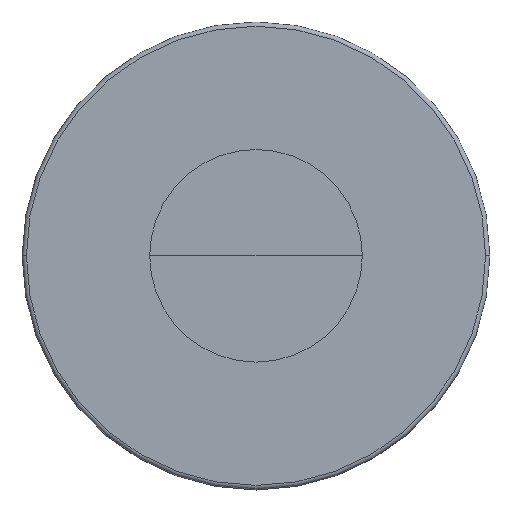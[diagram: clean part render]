
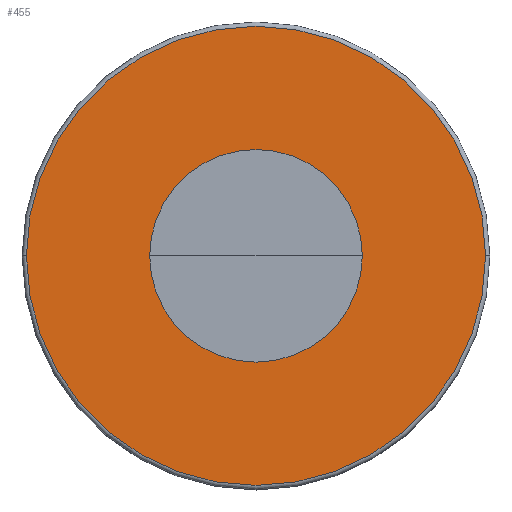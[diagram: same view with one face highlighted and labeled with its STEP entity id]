
A CAD part, top view. The second image highlights one B-rep face of the part: STEP entity #455.
In plain terms, the highlighted planar face has unit normal (0, 0, 1).
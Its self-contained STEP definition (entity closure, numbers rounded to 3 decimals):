
#9=CARTESIAN_POINT('',(0.,0.,3.));
#10=DIRECTION('',(0.,0.,-1.));
#11=DIRECTION('',(1.,0.,0.));
#12=AXIS2_PLACEMENT_3D('',#9,#10,#11);
#14=CARTESIAN_POINT('',(0.,0.,3.));
#15=DIRECTION('',(0.,0.,1.));
#16=DIRECTION('',(1.,0.,0.));
#17=AXIS2_PLACEMENT_3D('',#14,#15,#16);
#19=CARTESIAN_POINT('',(0.,0.,3.));
#20=DIRECTION('',(0.,0.,-1.));
#21=DIRECTION('',(1.,0.,0.));
#22=AXIS2_PLACEMENT_3D('',#19,#20,#21);
#24=CARTESIAN_POINT('',(0.,0.,3.));
#25=DIRECTION('',(0.,0.,-1.));
#26=DIRECTION('',(-1.,0.,0.));
#27=AXIS2_PLACEMENT_3D('',#24,#25,#26);
#374=CARTESIAN_POINT('',(1.25,0.,3.));
#376=VERTEX_POINT('',#374);
#377=CARTESIAN_POINT('',(-1.25,0.,3.));
#378=VERTEX_POINT('',#377);
#400=CARTESIAN_POINT('',(2.7,0.,3.));
#401=CARTESIAN_POINT('',(-2.7,0.,3.));
#402=VERTEX_POINT('',#400);
#403=VERTEX_POINT('',#401);
#440=CARTESIAN_POINT('',(0.,0.,3.));
#441=DIRECTION('',(0.,0.,1.));
#442=DIRECTION('',(-1.,0.,0.));
#443=AXIS2_PLACEMENT_3D('',#440,#441,#442);
#444=PLANE('',#443);
#446=ORIENTED_EDGE('',*,*,#445,.T.);
#448=ORIENTED_EDGE('',*,*,#447,.T.);
#449=EDGE_LOOP('',(#446,#448));
#450=FACE_OUTER_BOUND('',#449,.F.);
#451=ORIENTED_EDGE('',*,*,#434,.F.);
#452=ORIENTED_EDGE('',*,*,#418,.T.);
#453=EDGE_LOOP('',(#451,#452));
#454=FACE_BOUND('',#453,.F.);
#455=ADVANCED_FACE('',(#450,#454),#444,.T.);
#13=CIRCLE('',#12,1.25);
#18=CIRCLE('',#17,1.25);
#23=CIRCLE('',#22,2.7);
#28=CIRCLE('',#27,2.7);
#418=EDGE_CURVE('',#376,#378,#18,.T.);
#434=EDGE_CURVE('',#376,#378,#13,.T.);
#445=EDGE_CURVE('',#402,#403,#23,.T.);
#447=EDGE_CURVE('',#403,#402,#28,.T.);
